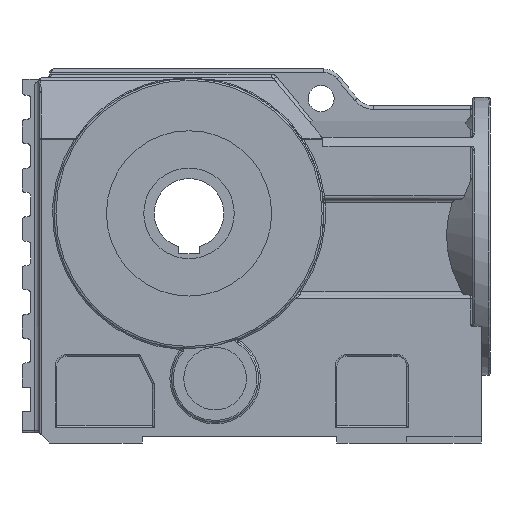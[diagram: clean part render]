
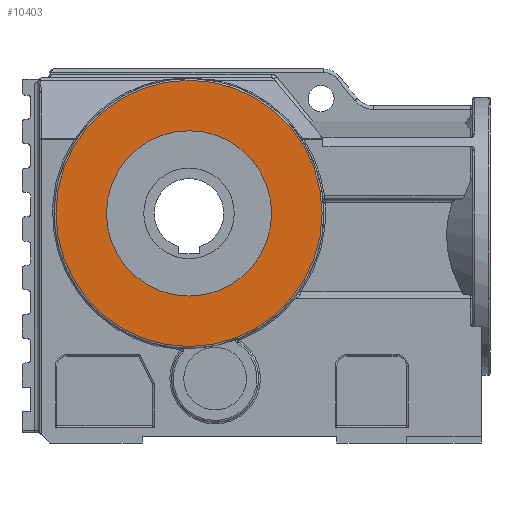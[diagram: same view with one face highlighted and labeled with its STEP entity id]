
A CAD part, front view. The second image highlights one B-rep face of the part: STEP entity #10403.
In plain terms, the highlighted planar face has unit normal (0, -1, 0).
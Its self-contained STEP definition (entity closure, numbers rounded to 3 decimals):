
#10369=CARTESIAN_POINT('',(40.5,-80.0,132.0));
#10370=VERTEX_POINT('',#10369);
#10371=CARTESIAN_POINT('',(-36.0,-80.0,132.0));
#10372=DIRECTION('',(0.0,1.0,0.0));
#10373=DIRECTION('',(-1.0,0.0,0.0));
#10374=AXIS2_PLACEMENT_3D('',#10371,#10372,#10373);
#10375=CIRCLE('',#10374,76.5);
#10376=EDGE_CURVE('',#10370,#10370,#10375,.T.);
#10384=CARTESIAN_POINT('',(-36.0,-80.0,132.0));
#10385=DIRECTION('',(0.0,1.0,0.0));
#10386=DIRECTION('',(0.0,0.0,1.0));
#10387=AXIS2_PLACEMENT_3D('',#10384,#10385,#10386);
#10388=PLANE('',#10387);
#10389=ORIENTED_EDGE('',*,*,#10376,.F.);
#10390=EDGE_LOOP('',(#10389));
#10391=FACE_OUTER_BOUND('',#10390,.T.);
#10392=CARTESIAN_POINT('',(11.5,-80.0,132.0));
#10393=VERTEX_POINT('',#10392);
#10394=CARTESIAN_POINT('',(-36.0,-80.0,132.0));
#10395=DIRECTION('',(0.0,1.0,0.0));
#10396=DIRECTION('',(-1.0,0.0,0.0));
#10397=AXIS2_PLACEMENT_3D('',#10394,#10395,#10396);
#10398=CIRCLE('',#10397,47.5);
#10399=EDGE_CURVE('',#10393,#10393,#10398,.T.);
#10400=ORIENTED_EDGE('',*,*,#10399,.T.);
#10401=EDGE_LOOP('',(#10400));
#10402=FACE_BOUND('',#10401,.T.);
#10403=ADVANCED_FACE('',(#10391,#10402),#10388,.F.);
